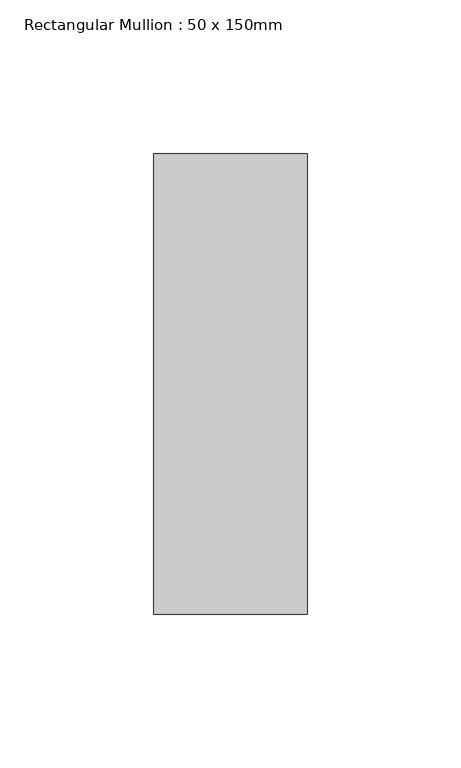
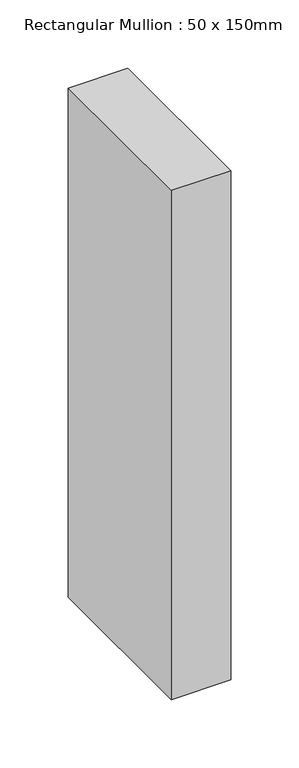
"""IFC4 building model written with IfcOpenShell, lengths in millimetres: member geometry, Rectangular Mullion : 50 x 150mm."""

from ifc_helpers import new_model, si_unit, frame, origin, place, context, project, spatial, polyline, outline, extrude, source, transform, mapped, element, save


def rectangular_mullion_50_x_150mm_342cd1b8(model_context):
    return source(origin(), model_context, "Body", "SweptSolid", [
        extrude(outline(polyline([(0.0, 75.0), (0.0, -75.0), (-50.0, -75.0), (-50.0, 75.0), (0.0, 75.0)])), frame((0.0, 0.0, -454.0000002), z_axis=(0.0, 0.0, 1.0), x_axis=(1.0, 0.0, 0.0)), (0.0, 0.0, 1.0), 454.0000002),
    ])


if __name__ == "__main__":
    model = new_model("IFC4")
    model_context = context("Model", 3, world=origin())
    ifc_project = project(units=[si_unit("LENGTHUNIT", "METRE", prefix="MILLI")], contexts=[model_context])
    site = spatial("IfcSite", under=ifc_project)
    building = spatial("IfcBuilding", under=site)
    placement = place(None, origin())
    rectangular_mullion_50_x_150mm_shape = rectangular_mullion_50_x_150mm_342cd1b8(model_context)
    element("IfcMember", 1, ObjectType="Rectangular Mullion : 50 x 150mm", at=placement, inside=building, context=model_context, shape_type="MappedRepresentation", body=[
        mapped(rectangular_mullion_50_x_150mm_shape, transform((0.0, 0.0, 0.0), x_axis=(1.0, 0.0, 0.0), y_axis=(0.0, 1.0, 0.0), z_axis=(0.0, 0.0, 1.0))),
    ])
    save(model, "model.ifc")
